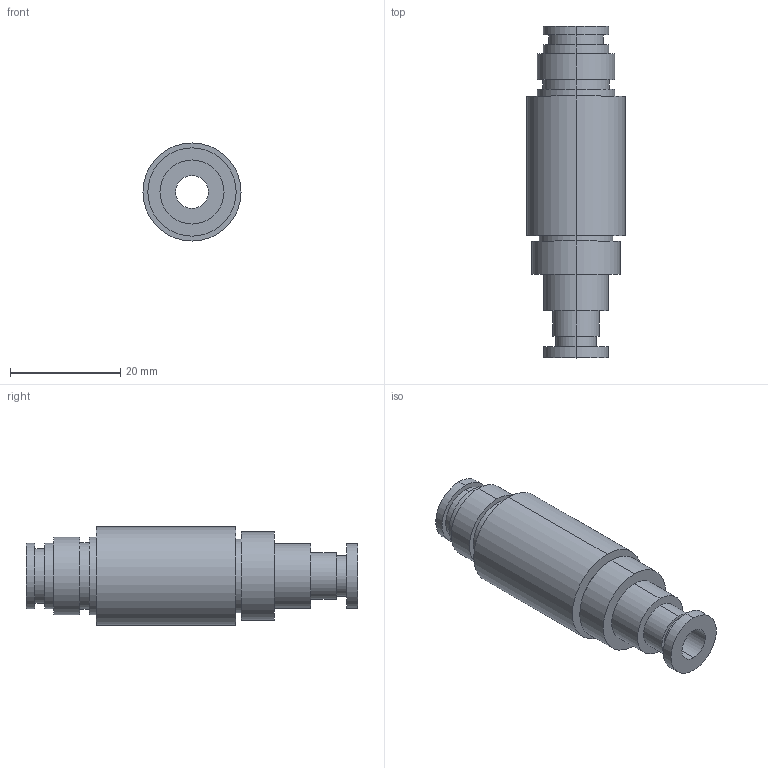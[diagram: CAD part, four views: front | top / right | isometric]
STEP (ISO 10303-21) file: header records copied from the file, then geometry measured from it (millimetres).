
FILE_DESCRIPTION (( 'STEP AP203' ), '1' );
FILE_NAME ('ER-VAJT-64.STEP', '2005-09-08T05:51:05', ( '' ), ( '' ), 'SwSTEP 2.0', 'SolidWorks 2004073', '' );
FILE_SCHEMA (( 'CONFIG_CONTROL_DESIGN' ));
Length unit declared in the file: millimetre
Products named in the file (1): ER-VAJT-64
Bounding box: 17.8 x 60.2 x 17.8 mm (x, y, z)
Volume: 8804.5 mm3; surface area: 4722.4 mm2
Topology: 1 solids, 1 shells, 42 faces, 84 edges, 56 vertices
Faces by surface type: cylinder 28, plane 14
Entity records: 1205 total; most frequent: DIRECTION 226, CARTESIAN_POINT 183, ORIENTED_EDGE 168, AXIS2_PLACEMENT_3D 99, EDGE_CURVE 84, CIRCLE 56, EDGE_LOOP 56, VERTEX_POINT 56
